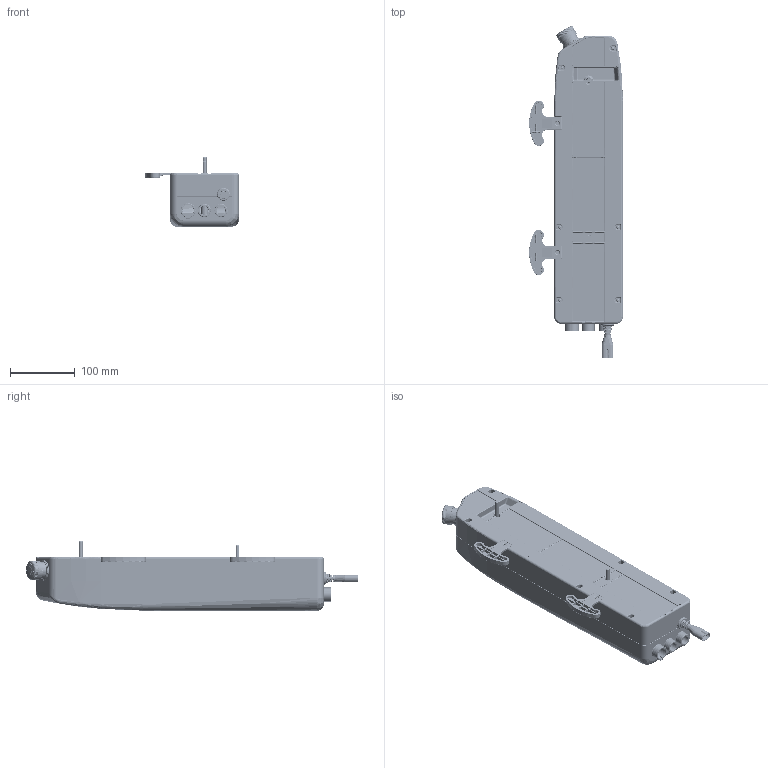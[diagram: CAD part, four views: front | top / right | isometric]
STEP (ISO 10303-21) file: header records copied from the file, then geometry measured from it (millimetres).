
FILE_DESCRIPTION (( 'STEP AP214' ), '1' );
FILE_NAME ('cm42_asm.STEP', '2019-12-13T03:41:05', ( 'lynn' ), ( '' ), 'SwSTEP 2.0', 'SolidWorks 2015', '' );
FILE_SCHEMA (( 'AUTOMOTIVE_DESIGN' ));
Length unit declared in the file: millimetre
Products named in the file (1): cm42_asm
Bounding box: 144.98 x 513.75 x 107.69 mm (x, y, z)
Surface area: 434574.6 mm2 (no closed solid volume)
Topology: 0 solids, 4756 shells, 4756 faces, 23563 edges, 23341 vertices
Faces by surface type: bspline 2360, plane 1696, cylinder 573, cone 127
Entity records: 341000 total; most frequent: CARTESIAN_POINT 182755, DIRECTION 24377, EDGE_CURVE 23341, ORIENTED_EDGE 23341, VERTEX_POINT 23340, LINE 11113, VECTOR 11113, B_SPLINE_CURVE_WITH_KNOTS 7770
